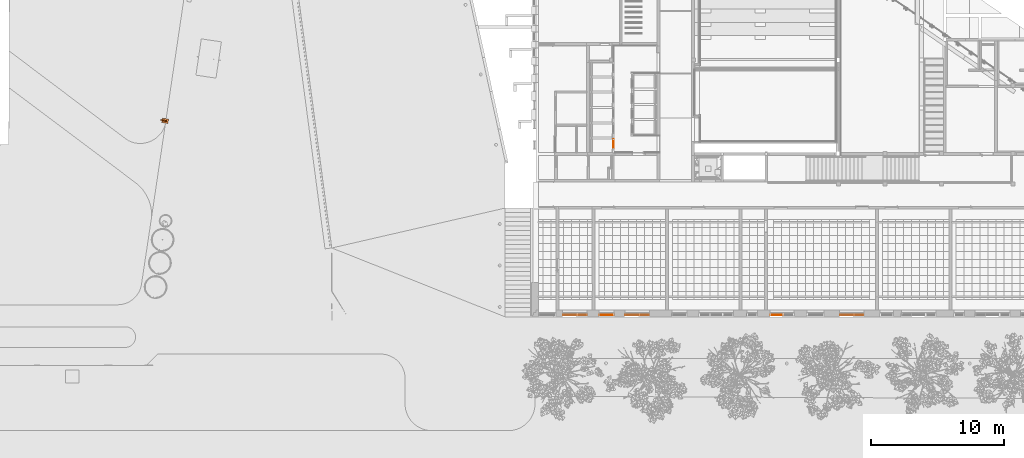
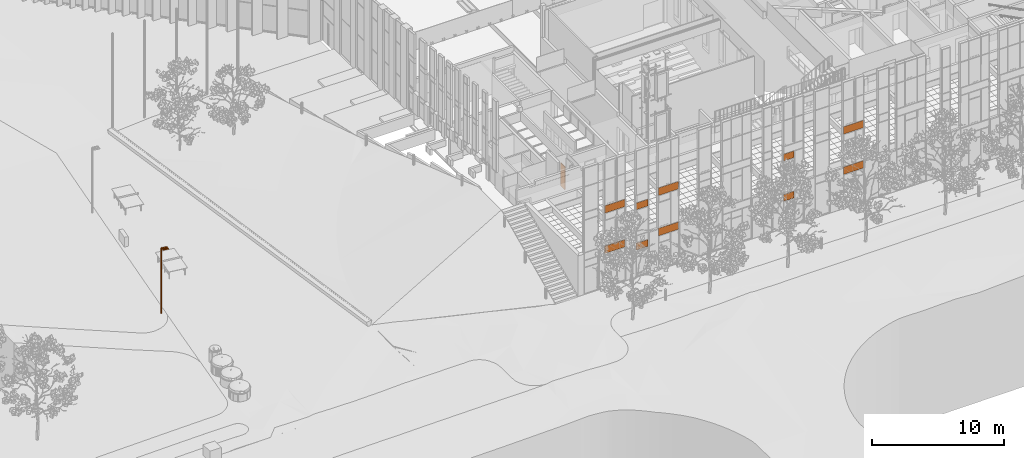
# One storey, part 203 of 246: 12 proxies, 6 elements without a shape of their own.
"""IFC2X3 building model written with IfcOpenShell, lengths in millimetres."""

from ifc_helpers import new_model, entity, si_unit, converted_unit, derived_unit, money_unit, direction, frame, origin_with_axes, place, context, subcontext, project, spatial, open_shell, faceted_brep, surface_model, source, transform, mapped, material, material_list, type_object, element, aggregate, save


model = new_model("IFC2X3")

# Units and contexts
model_context = context("Model", 3, precision=0.01, world=origin_with_axes(), true_north=direction((0.0, 1.0)))
body_context = subcontext(model_context, "Body", "Model", "MODEL_VIEW")
ifc_project = project(units=[si_unit("LENGTHUNIT", "METRE", prefix="MILLI"), si_unit("AREAUNIT", "SQUARE_METRE"), si_unit("VOLUMEUNIT", "CUBIC_METRE"), converted_unit("PLANEANGLEUNIT", "DEGREE", entity("IfcPlaneAngleMeasure", 0.0174532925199), si_unit("PLANEANGLEUNIT", "RADIAN"), dimensions=[0, 0, 0, 0, 0, 0, 0]), si_unit("SOLIDANGLEUNIT", "STERADIAN"), money_unit("EUR"), converted_unit("TIMEUNIT", "Year", entity("IfcTimeMeasure", 31556926.0), si_unit("TIMEUNIT", "SECOND"), dimensions=[0, 0, 1, 0, 0, 0, 0]), si_unit("MASSUNIT", "GRAM", prefix="KILO"), si_unit("THERMODYNAMICTEMPERATUREUNIT", "DEGREE_CELSIUS"), si_unit("LUMINOUSINTENSITYUNIT", "LUMEN"), si_unit("ENERGYUNIT", "JOULE", prefix="MEGA"), derived_unit("THERMALCONDUCTANCEUNIT", [(si_unit("POWERUNIT", "WATT"), 1), (si_unit("LENGTHUNIT", "METRE"), -1), (si_unit("THERMODYNAMICTEMPERATUREUNIT", "KELVIN"), -1)]), derived_unit("SPECIFICHEATCAPACITYUNIT", [(si_unit("ENERGYUNIT", "JOULE"), 1), (si_unit("MASSUNIT", "GRAM", prefix="KILO"), -1), (si_unit("THERMODYNAMICTEMPERATUREUNIT", "KELVIN"), -1)]), derived_unit("MASSDENSITYUNIT", [(si_unit("MASSUNIT", "GRAM", prefix="KILO"), 1), (si_unit("VOLUMEUNIT", "CUBIC_METRE"), -1)])], contexts=[model_context])

# Site, building, storey
site_placement = place(None, origin_with_axes())
site = spatial("IfcSite", under=ifc_project, at=site_placement, Name="L.Koidula tn 11b", CompositionType="ELEMENT")
building_placement = place(site_placement, origin_with_axes())
building = spatial("IfcBuilding", under=site, at=building_placement, Name="Rakvere Riigigümnaasium", CompositionType="ELEMENT")
storey_placement = place(building_placement, origin_with_axes())
storey = spatial("IfcBuildingStorey", under=building, at=storey_placement, Name="1.korrus 0,00", CompositionType="ELEMENT", Elevation=0.0)

# Curtain wall, proxy
curtain_wall_type = type_object("IfcCurtainWallType", Name="Curtain Wall Type", PredefinedType="NOTDEFINED")
curtain_wall_1_placement = place(storey_placement, frame((41170.0073165, 24038.4555472, 1.56205997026e-05), z_axis=(0.0, 0.0, 1.0), x_axis=(1.0, 0.0, 0.0)))
curtain_wall_1 = element("IfcCurtainWall", 1, at=curtain_wall_1_placement, inside=storey, type_object=curtain_wall_type, Name="SUS-01")
ifc_material_1 = material(Name="Alumiiniumprofiil (RAL 7021)")
ifc_material_2 = material(Name="MDF")
ifc_material_list = material_list([ifc_material_1, ifc_material_2])
building_element_proxy_type_1 = type_object("IfcBuildingElementProxyType", Name="SU-Sile 7 x 2100 x 0", PredefinedType="NOTDEFINED")
shared_shape_1 = source(origin_with_axes(), body_context, "Body", "SurfaceModel", [
    surface_model("IfcShellBasedSurfaceModel", [(650.000009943, 0.0, 50.0), (638.000009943, 0.0, 50.0), (638.000009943, 2099.99998859, 50.0), (650.000009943, 2111.99998859, 50.0)], [open_shell([[[0, 1, 2, 3]]])]),
    surface_model("IfcShellBasedSurfaceModel", [(638.000009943, 2099.99998859, 50.0), (12.0000044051, 2099.99998859, 50.0), (4.40512737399e-06, 2111.99998859, 50.0), (650.000009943, 2111.99998859, 50.0)], [open_shell([[[0, 1, 2, 3]]])]),
    surface_model("IfcShellBasedSurfaceModel", [(12.0000044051, 2099.99998859, 50.0), (12.0000044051, 0.0, 50.0), (4.40512737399e-06, 0.0, 50.0), (4.40512737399e-06, 2111.99998859, 50.0)], [open_shell([[[0, 1, 2, 3]]])]),
    surface_model("IfcShellBasedSurfaceModel", [(657.000014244, 0.0, 0.0), (638.000009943, 0.0, 0.0), (638.000009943, 2099.99998859, 0.0), (657.000014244, 2099.99998859, 0.0)], [open_shell([[[0, 1, 2, 3]]])]),
    surface_model("IfcShellBasedSurfaceModel", [(-7.00000002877, 2099.99998859, 0.0), (12.0000044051, 2099.99998859, 0.0), (12.0000044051, 0.0, 0.0), (-7.00000002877, 0.0, 0.0)], [open_shell([[[0, 1, 2, 3]]])]),
    faceted_brep([(4.4051269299e-06, 0.0, 38.1818181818), (4.4051269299e-06, 0.0, 0.0), (650.000009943, 0.0, 0.0), (650.000009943, 0.0, 38.1818181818), (4.4051269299e-06, 2111.99998859, 38.1818181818), (4.4051269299e-06, 2111.99998859, 0.0), (650.000009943, 2111.99998859, 0.0), (650.000009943, 2111.99998859, 38.1818181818)], [[[0, 1, 2, 3]], [[4, 5, 1, 0]], [[1, 5, 6, 2]], [[3, 2, 6, 7]], [[0, 3, 7, 4]], [[7, 6, 5, 4]]]),
    faceted_brep([(11.1428616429, 0.0, 50.0), (11.1428616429, 0.0, 38.1818181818), (638.857152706, 0.0, 38.1818181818), (638.857152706, 0.0, 50.0), (11.1428616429, 2099.93141722, 50.0), (11.1428616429, 2099.93141722, 38.1818181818), (638.857152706, 2099.93141722, 38.1818181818), (638.857152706, 2099.93141722, 50.0)], [[[0, 1, 2, 3]], [[4, 5, 1, 0]], [[1, 5, 6, 2]], [[3, 2, 6, 7]], [[0, 3, 7, 4]], [[7, 6, 5, 4]]]),
])
proxy_1_placement = place(curtain_wall_1_placement, frame((0.0, -6072.00003493, 1049.99995298), z_axis=(0.0, 0.0, 1.0), x_axis=(0.0, 1.0, 0.0)))
proxy_1 = element("IfcBuildingElementProxy", 2, at=proxy_1_placement, type_object=building_element_proxy_type_1, material=ifc_material_list, Name="Panel-Curtain-Wa-013", context=body_context, shape_type="MappedRepresentation", body=[
    mapped(shared_shape_1, transform((325.0, 0.0, -1049.9999686), x_axis=(-1.0, 0.0, 0.0), y_axis=(0.0, 0.0, 1.0), z_axis=(0.0, 1.0, 0.0))),
])
aggregate(curtain_wall_1, [proxy_1])

# Curtain wall, proxies
curtain_wall_2_placement = place(storey_placement, frame((42948.5002114, 5111.45334637, -8.09717250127e-06), z_axis=(0.0, 0.0, 1.0), x_axis=(1.0, 0.0, 0.0)))
curtain_wall_2 = element("IfcCurtainWall", 3, at=curtain_wall_2_placement, inside=storey, type_object=curtain_wall_type, Name="KLF-05-2A")
ifc_material_3 = material(Name="Klaaspakett- taustvärvitud klaas 3x")
building_element_proxy_type_2 = type_object("IfcBuildingElementProxyType", Name="1058 x 681 x 54", PredefinedType="NOTDEFINED")
shared_shape_2 = source(origin_with_axes(), body_context, "Body", "Brep", [
    faceted_brep([(1793.00030431, 692.999989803, -27.0), (1094.99999675, 692.999989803, -27.0), (1094.99999675, 692.999989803, 27.0), (1793.00030431, 692.999989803, 27.0), (1793.00030431, 12.0000099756, -27.0), (1094.99999675, 12.0000099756, -27.0), (36.9999898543, 12.0000099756, -27.0), (36.9999898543, 692.999989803, -27.0), (36.9999898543, 692.999989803, 27.0), (36.9999898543, 12.0000099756, 27.0), (1094.99999675, 12.0000099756, 27.0), (1793.00030431, 12.0000099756, 27.0)], [[[0, 1, 2, 3]], [[0, 4, 5, 6, 7, 1]], [[1, 7, 8, 2]], [[3, 2, 8, 9, 10, 11]], [[4, 0, 3, 11]], [[5, 4, 11, 10]], [[6, 5, 10, 9]], [[7, 6, 9, 8]]]),
])
proxy_2_placement = place(curtain_wall_2_placement, frame((0.0, 0.0, 3392.5), z_axis=(0.0, 0.0, 1.0), x_axis=(-1.0, 0.0, 0.0)))
proxy_2 = element("IfcBuildingElementProxy", 4, at=proxy_2_placement, type_object=building_element_proxy_type_2, material=ifc_material_3, Name="KLF-05-2A-Klaasid", context=body_context, shape_type="MappedRepresentation", body=[
    mapped(shared_shape_2, transform((954.000087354, 0.0, -352.5), x_axis=(-1.0, 0.0, 0.0), y_axis=(0.0, 0.0, 1.0), z_axis=(0.0, 1.0, 0.0))),
])
proxy_3_placement = place(curtain_wall_2_placement, frame((0.0, 0.0, 7112.5), z_axis=(0.0, 0.0, 1.0), x_axis=(-1.0, 0.0, 0.0)))
proxy_3 = element("IfcBuildingElementProxy", 5, at=proxy_3_placement, type_object=building_element_proxy_type_2, material=ifc_material_3, Name="KLF-05-2A-Klaasid", context=body_context, shape_type="MappedRepresentation", body=[
    mapped(shared_shape_2, transform((954.000087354, 0.0, -352.5), x_axis=(-1.0, 0.0, 0.0), y_axis=(0.0, 0.0, 1.0), z_axis=(0.0, 1.0, 0.0))),
])
aggregate(curtain_wall_2, [proxy_2, proxy_3])

curtain_wall_3_placement = place(storey_placement, frame((38273.9956035, 5111.45334637, -8.09717250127e-06), z_axis=(0.0, 0.0, 1.0), x_axis=(1.0, 0.0, 0.0)))
curtain_wall_3 = element("IfcCurtainWall", 6, at=curtain_wall_3_placement, inside=storey, type_object=curtain_wall_type, Name="KLF-05-2A")
proxy_4_placement = place(curtain_wall_3_placement, frame((0.0, 0.0, 3392.5), z_axis=(0.0, 0.0, 1.0), x_axis=(-1.0, 0.0, 0.0)))
proxy_4 = element("IfcBuildingElementProxy", 7, at=proxy_4_placement, type_object=building_element_proxy_type_2, material=ifc_material_3, Name="KLF-05-2A-Klaasid", context=body_context, shape_type="MappedRepresentation", body=[
    mapped(shared_shape_2, transform((954.000087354, 0.0, -352.5), x_axis=(-1.0, 0.0, 0.0), y_axis=(0.0, 0.0, 1.0), z_axis=(0.0, 1.0, 0.0))),
])
proxy_5_placement = place(curtain_wall_3_placement, frame((0.0, 0.0, 7112.5), z_axis=(0.0, 0.0, 1.0), x_axis=(-1.0, 0.0, 0.0)))
proxy_5 = element("IfcBuildingElementProxy", 8, at=proxy_5_placement, type_object=building_element_proxy_type_2, material=ifc_material_3, Name="KLF-05-2A-Klaasid", context=body_context, shape_type="MappedRepresentation", body=[
    mapped(shared_shape_2, transform((954.000087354, 0.0, -352.5), x_axis=(-1.0, 0.0, 0.0), y_axis=(0.0, 0.0, 1.0), z_axis=(0.0, 1.0, 0.0))),
])
aggregate(curtain_wall_3, [proxy_4, proxy_5])

curtain_wall_4_placement = place(storey_placement, frame((59064.0000846, 5111.45334637, -8.09717250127e-06), z_axis=(0.0, 0.0, 1.0), x_axis=(1.0, 0.0, 0.0)))
curtain_wall_4 = element("IfcCurtainWall", 9, at=curtain_wall_4_placement, inside=storey, type_object=curtain_wall_type, Name="KLF-05-2A")
proxy_6_placement = place(curtain_wall_4_placement, frame((0.0, 0.0, 3392.5), z_axis=(0.0, 0.0, 1.0), x_axis=(-1.0, 0.0, 0.0)))
proxy_6 = element("IfcBuildingElementProxy", 10, at=proxy_6_placement, type_object=building_element_proxy_type_2, material=ifc_material_3, Name="KLF-05-2A-Klaasid", context=body_context, shape_type="MappedRepresentation", body=[
    mapped(shared_shape_2, transform((954.000087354, 0.0, -352.5), x_axis=(-1.0, 0.0, 0.0), y_axis=(0.0, 0.0, 1.0), z_axis=(0.0, 1.0, 0.0))),
])
proxy_7_placement = place(curtain_wall_4_placement, frame((0.0, 0.0, 7112.5), z_axis=(0.0, 0.0, 1.0), x_axis=(-1.0, 0.0, 0.0)))
proxy_7 = element("IfcBuildingElementProxy", 11, at=proxy_7_placement, type_object=building_element_proxy_type_2, material=ifc_material_3, Name="KLF-05-2A-Klaasid", context=body_context, shape_type="MappedRepresentation", body=[
    mapped(shared_shape_2, transform((954.000087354, 0.0, -352.5), x_axis=(-1.0, 0.0, 0.0), y_axis=(0.0, 0.0, 1.0), z_axis=(0.0, 1.0, 0.0))),
])
aggregate(curtain_wall_4, [proxy_6, proxy_7])

# Proxy
building_element_proxy_type_3 = type_object("IfcBuildingElementProxyType", Name="Väls valgusti - VFL530 LED", PredefinedType="NOTDEFINED")
shared_shape_3 = source(origin_with_axes(), body_context, "Body", "Brep", [
    faceted_brep([(468.863076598, 125.0, 5952.26982842), (468.863076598, 205.0, 5952.26982842), (470.0, 205.0, 5967.74900907), (470.0, 125.0, 5967.74900907), (100.0, 205.0, 5952.26982842), (100.0, 125.0, 5952.26982842), (100.0, 205.0, 5944.7902874), (-3.66256168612, 205.0, 5952.40415243), (0.0, 205.0, 6002.26982842), (0.0, 125.0, 6002.26982842), (-3.66256168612, 125.0, 5952.40415243), (100.0, 125.0, 5944.7902874)], [[[0, 1, 2, 3]], [[4, 1, 0, 5]], [[4, 6, 7, 8, 2, 1]], [[2, 8, 9, 3]], [[5, 0, 3, 9, 10, 11]], [[6, 4, 5, 11]], [[6, 11, 10, 7]], [[8, 7, 10, 9]]]),
    faceted_brep([(100.0, 330.0, 5902.26982842), (100.0, 0.0, 5902.26982842), (100.0, 0.0, 5952.26982842), (100.0, 330.0, 5952.26982842), (570.0, 330.0, 5902.26982842), (570.0, 0.0, 5902.26982842), (570.0, 0.0, 5952.26982842), (570.0, 330.0, 5952.26982842)], [[[0, 1, 2, 3]], [[0, 4, 5, 1]], [[1, 5, 6, 2]], [[3, 2, 6, 7]], [[4, 0, 3, 7]], [[5, 4, 7, 6]]]),
    faceted_brep([(76.9551813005, 180.307337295, 5946.48289596), (80.0, 165.0, 5946.25925843), (80.0, 165.0, 0.0), (76.9551813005, 180.307337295, 0.0), (76.9551813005, 149.692662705, 5946.48289596), (68.2842712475, 193.284271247, 5947.11976174), (55.3073372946, 201.9551813, 5948.07289875), (40.0, 205.0, 5949.19720051), (24.6926627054, 201.9551813, 5950.32150226), (11.7157287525, 193.284271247, 5951.27463927), (3.04481869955, 180.307337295, 5951.91150505), (0.0, 165.0, 5952.13514258), (3.04481869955, 149.692662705, 5951.91150505), (11.7157287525, 136.715728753, 5951.27463927), (24.6926627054, 128.0448187, 5950.32150226), (40.0, 125.0, 5949.19720051), (55.3073372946, 128.0448187, 5948.07289875), (68.2842712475, 136.715728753, 5947.11976174), (76.9551813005, 149.692662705, 0.0), (3.04481869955, 149.692662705, 0.0), (0.0, 165.0, 0.0), (3.04481869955, 180.307337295, 0.0), (11.7157287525, 193.284271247, 0.0), (24.6926627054, 201.9551813, 0.0), (40.0, 205.0, 0.0), (55.3073372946, 201.9551813, 0.0), (68.2842712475, 193.284271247, 0.0), (68.2842712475, 136.715728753, 0.0), (55.3073372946, 128.0448187, 0.0), (40.0, 125.0, 0.0), (24.6926627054, 128.0448187, 0.0), (11.7157287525, 136.715728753, 0.0)], [[[0, 1, 2, 3]], [[4, 1, 0, 5, 6, 7, 8, 9, 10, 11, 12, 13, 14, 15, 16, 17]], [[1, 4, 18, 2]], [[19, 20, 21, 22, 23, 24, 25, 26, 3, 2, 18, 27, 28, 29, 30, 31]], [[5, 0, 3, 26]], [[6, 5, 26, 25]], [[7, 6, 25, 24]], [[8, 7, 24, 23]], [[9, 8, 23, 22]], [[10, 9, 22, 21]], [[11, 10, 21, 20]], [[12, 11, 20, 19]], [[13, 12, 19, 31]], [[14, 13, 31, 30]], [[15, 14, 30, 29]], [[16, 15, 29, 28]], [[17, 16, 28, 27]], [[4, 17, 27, 18]]]),
])
proxy_8_placement = place(storey_placement, frame((7104.3567024, 19593.0389636, -776.907090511), z_axis=(0.0, 0.0, 1.0), x_axis=(0.986503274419, -0.16374153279, 0.0)))
element("IfcBuildingElementProxy", 12, at=proxy_8_placement, inside=storey, type_object=building_element_proxy_type_3, material=ifc_material_1, Name="Tänava valgusti", context=body_context, shape_type="MappedRepresentation", body=[
    mapped(shared_shape_3, transform((0.0, 0.0, 0.0))),
])

# Curtain wall, proxies
curtain_wall_5_placement = place(storey_placement, frame((40619.71659, 5111.45334637, -1.61944636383e-05), z_axis=(0.0, 0.0, 1.0), x_axis=(1.0, 0.0, 0.0)))
curtain_wall_5 = element("IfcCurtainWall", 13, at=curtain_wall_5_placement, inside=storey, type_object=curtain_wall_type, Name="KLF-05-1D")
ifc_material_4 = material(Name="Klaaspakett 3x ribikardinatega")
building_element_proxy_type_4 = type_object("IfcBuildingElementProxyType", Name="1046 x 616 x 54", PredefinedType="NOTDEFINED")
shared_shape_4 = source(origin_with_axes(), body_context, "Body", "Brep", [
    faceted_brep([(1083.50020101, 627.999995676, -27.0), (37.4999016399, 627.999995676, -27.0), (37.4999016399, 627.999995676, 27.0), (1083.50020101, 627.999995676, 27.0), (1083.50020101, 12.0000057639, -27.0), (37.4999016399, 12.0000057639, -27.0), (37.4999016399, 12.0000057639, 27.0), (1083.50020101, 12.0000057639, 27.0)], [[[0, 1, 2, 3]], [[0, 4, 5, 1]], [[1, 5, 6, 2]], [[3, 2, 6, 7]], [[4, 0, 3, 7]], [[5, 4, 7, 6]]]),
])
proxy_9_placement = place(curtain_wall_5_placement, frame((0.0, 0.0, 6440.0), z_axis=(0.0, 0.0, 1.0), x_axis=(-1.0, 0.0, 0.0)))
proxy_9 = element("IfcBuildingElementProxy", 14, at=proxy_9_placement, type_object=building_element_proxy_type_4, material=ifc_material_4, Name="KLF-68", context=body_context, shape_type="MappedRepresentation", body=[
    mapped(shared_shape_4, transform((560.500051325, 0.0, -320.0), x_axis=(-1.0, 0.0, 0.0), y_axis=(0.0, 0.0, 1.0), z_axis=(0.0, 1.0, 0.0))),
])
proxy_10_placement = place(curtain_wall_5_placement, frame((0.0, 0.0, 2720.0), z_axis=(0.0, 0.0, 1.0), x_axis=(-1.0, 0.0, 0.0)))
proxy_10 = element("IfcBuildingElementProxy", 15, at=proxy_10_placement, type_object=building_element_proxy_type_4, material=ifc_material_4, Name="KLF-58", context=body_context, shape_type="MappedRepresentation", body=[
    mapped(shared_shape_4, transform((560.500051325, 0.0, -320.0), x_axis=(-1.0, 0.0, 0.0), y_axis=(0.0, 0.0, 1.0), z_axis=(0.0, 1.0, 0.0))),
])
aggregate(curtain_wall_5, [proxy_9, proxy_10])

curtain_wall_6_placement = place(storey_placement, frame((54287.5000684, 5111.45334637, -1.61944652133e-05), z_axis=(0.0, 0.0, 1.0), x_axis=(1.0, 0.0, 0.0)))
curtain_wall_6 = element("IfcCurtainWall", 16, at=curtain_wall_6_placement, inside=storey, type_object=curtain_wall_type, Name="KLF-05-2B")
building_element_proxy_type_5 = type_object("IfcBuildingElementProxyType", Name="926 x 616 x 54", PredefinedType="NOTDEFINED")
shared_shape_5 = source(origin_with_axes(), body_context, "Body", "Brep", [
    faceted_brep([(963.000006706, 627.999997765, -27.0), (37.0000011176, 627.999997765, -27.0), (37.0000011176, 627.999997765, 27.0), (963.000006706, 627.999997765, 27.0), (963.000006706, 11.9999932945, -27.0), (37.0000011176, 11.9999932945, -27.0), (37.0000011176, 11.9999932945, 27.0), (963.000006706, 11.9999932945, 27.0)], [[[0, 1, 2, 3]], [[0, 4, 5, 1]], [[1, 5, 6, 2]], [[3, 2, 6, 7]], [[4, 0, 3, 7]], [[5, 4, 7, 6]]]),
])
proxy_11_placement = place(curtain_wall_6_placement, frame((-890.000049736, 0.0, 2720.0), z_axis=(0.0, 0.0, 1.0), x_axis=(-1.0, 0.0, 0.0)))
proxy_11 = element("IfcBuildingElementProxy", 17, at=proxy_11_placement, type_object=building_element_proxy_type_5, material=ifc_material_4, Name="KLF-58", context=body_context, shape_type="MappedRepresentation", body=[
    mapped(shared_shape_5, transform((487.5, 0.0, -320.0), x_axis=(-1.0, 0.0, 0.0), y_axis=(0.0, 0.0, 1.0), z_axis=(0.0, 1.0, 0.0))),
])
proxy_12_placement = place(curtain_wall_6_placement, frame((-890.000049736, 0.0, 6440.0), z_axis=(0.0, 0.0, 1.0), x_axis=(-1.0, 0.0, 0.0)))
proxy_12 = element("IfcBuildingElementProxy", 18, at=proxy_12_placement, type_object=building_element_proxy_type_5, material=ifc_material_4, Name="KLF-68", context=body_context, shape_type="MappedRepresentation", body=[
    mapped(shared_shape_5, transform((487.5, 0.0, -320.0), x_axis=(-1.0, 0.0, 0.0), y_axis=(0.0, 0.0, 1.0), z_axis=(0.0, 1.0, 0.0))),
])
aggregate(curtain_wall_6, [proxy_11, proxy_12])

save(model, "model.ifc")
